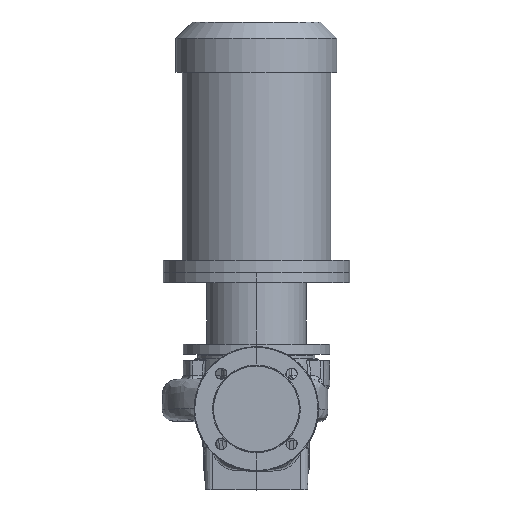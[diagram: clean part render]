
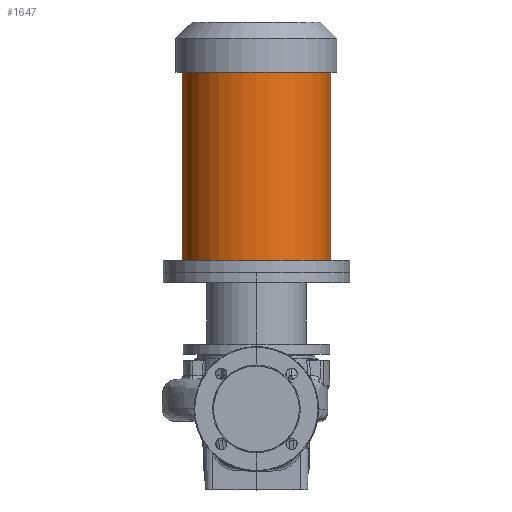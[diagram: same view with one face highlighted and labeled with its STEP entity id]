
A CAD part, top view. The second image highlights one B-rep face of the part: STEP entity #1647.
In plain terms, the highlighted cylindrical face has radius 119.5 mm (diameter 239 mm), a partial arc.
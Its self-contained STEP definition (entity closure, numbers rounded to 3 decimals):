
#469 = CARTESIAN_POINT ( 'NONE',  ( -119.5, 541.3, 0. ) ) ;
#838 = DIRECTION ( 'NONE',  ( -1., 0., 0. ) ) ;
#1647 = ADVANCED_FACE ( 'NONE', ( #10359 ), #61801, .T. ) ;
#2260 = EDGE_CURVE ( 'NONE', #59324, #18192, #8018, .T. ) ;
#6458 = CIRCLE ( 'NONE', #43422, 119.5 ) ;
#8018 = LINE ( 'NONE', #23068, #48106 ) ;
#10359 = FACE_OUTER_BOUND ( 'NONE', #38147, .T. ) ;
#13052 = ORIENTED_EDGE ( 'NONE', *, *, #44372, .F. ) ;
#14785 = CARTESIAN_POINT ( 'NONE',  ( 0., 239.3, 0. ) ) ;
#15120 = VERTEX_POINT ( 'NONE', #39543 ) ;
#15783 = AXIS2_PLACEMENT_3D ( 'NONE', #36280, #35429, #55316 ) ;
#16434 = LINE ( 'NONE', #53070, #39886 ) ;
#18192 = VERTEX_POINT ( 'NONE', #18807 ) ;
#18330 = EDGE_CURVE ( 'NONE', #38261, #15120, #16434, .T. ) ;
#18807 = CARTESIAN_POINT ( 'NONE',  ( 119.5, 239.3, 0. ) ) ;
#20228 = CARTESIAN_POINT ( 'NONE',  ( 0., 541.3, 0. ) ) ;
#20362 = EDGE_CURVE ( 'NONE', #59324, #38261, #6458, .T. ) ;
#20516 = ORIENTED_EDGE ( 'NONE', *, *, #20362, .T. ) ;
#23068 = CARTESIAN_POINT ( 'NONE',  ( 119.5, 219.3, 0. ) ) ;
#23830 = DIRECTION ( 'NONE',  ( 0., -1., 0. ) ) ;
#34032 = AXIS2_PLACEMENT_3D ( 'NONE', #14785, #23830, #47974 ) ;
#34709 = ORIENTED_EDGE ( 'NONE', *, *, #18330, .T. ) ;
#35429 = DIRECTION ( 'NONE',  ( 0., -1., 0. ) ) ;
#36280 = CARTESIAN_POINT ( 'NONE',  ( 0., 219.3, 0. ) ) ;
#38147 = EDGE_LOOP ( 'NONE', ( #52925, #20516, #34709, #13052 ) ) ;
#38261 = VERTEX_POINT ( 'NONE', #469 ) ;
#38466 = DIRECTION ( 'NONE',  ( 0., -1., 0. ) ) ;
#39543 = CARTESIAN_POINT ( 'NONE',  ( -119.5, 239.3, 0. ) ) ;
#39886 = VECTOR ( 'NONE', #38466, 1000. ) ;
#41690 = DIRECTION ( 'NONE',  ( 0., -1., 0. ) ) ;
#43422 = AXIS2_PLACEMENT_3D ( 'NONE', #20228, #54300, #838 ) ;
#44372 = EDGE_CURVE ( 'NONE', #18192, #15120, #49900, .T. ) ;
#47974 = DIRECTION ( 'NONE',  ( -1., 0., 0. ) ) ;
#48106 = VECTOR ( 'NONE', #41690, 1000. ) ;
#49900 = CIRCLE ( 'NONE', #34032, 119.5 ) ;
#52925 = ORIENTED_EDGE ( 'NONE', *, *, #2260, .F. ) ;
#53070 = CARTESIAN_POINT ( 'NONE',  ( -119.5, 219.3, 0. ) ) ;
#54300 = DIRECTION ( 'NONE',  ( 0., -1., 0. ) ) ;
#55316 = DIRECTION ( 'NONE',  ( -1., 0., 0. ) ) ;
#55985 = CARTESIAN_POINT ( 'NONE',  ( 119.5, 541.3, 0. ) ) ;
#59324 = VERTEX_POINT ( 'NONE', #55985 ) ;
#61801 = CYLINDRICAL_SURFACE ( 'NONE', #15783, 119.5 ) ;
